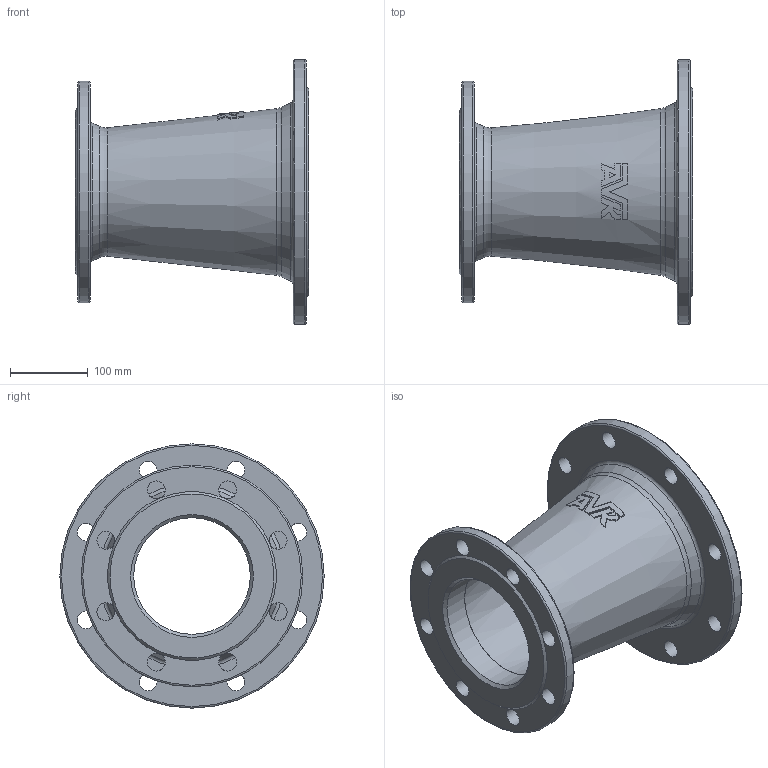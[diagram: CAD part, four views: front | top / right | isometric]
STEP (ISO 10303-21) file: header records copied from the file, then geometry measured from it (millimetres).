
FILE_DESCRIPTION (( 'STEP AP203' ), '1' );
FILE_NAME ('O_712_2210_DN200_DN150_0X_REV01.step', '2024-08-07T11:58:00', ( '' ), ( '' ), 'SwSTEP 2.0', 'SolidWorks 2022', '' );
FILE_SCHEMA (( 'CONFIG_CONTROL_DESIGN' ));
Length unit declared in the file: millimetre
Products named in the file (1): O_712_2210_DN200_DN150_0X_REV01
Bounding box: 300 x 340 x 340 mm (x, y, z)
Volume: 2945744.1 mm3; surface area: 551743.7 mm2
Topology: 1 solids, 1 shells, 85 faces, 246 edges, 155 vertices
Faces by surface type: plane 41, cylinder 22, cone 12, torus 10
Full cylindrical faces by diameter (mm): 23 x16, 150 x1, 200 x1, 285 x1, 340 x1
Entity records: 2630 total; most frequent: CARTESIAN_POINT 589, DIRECTION 421, ORIENTED_EDGE 370, AXIS2_PLACEMENT_3D 192, EDGE_CURVE 185, EDGE_LOOP 149, VERTEX_POINT 132, FACE_OUTER_BOUND 115
